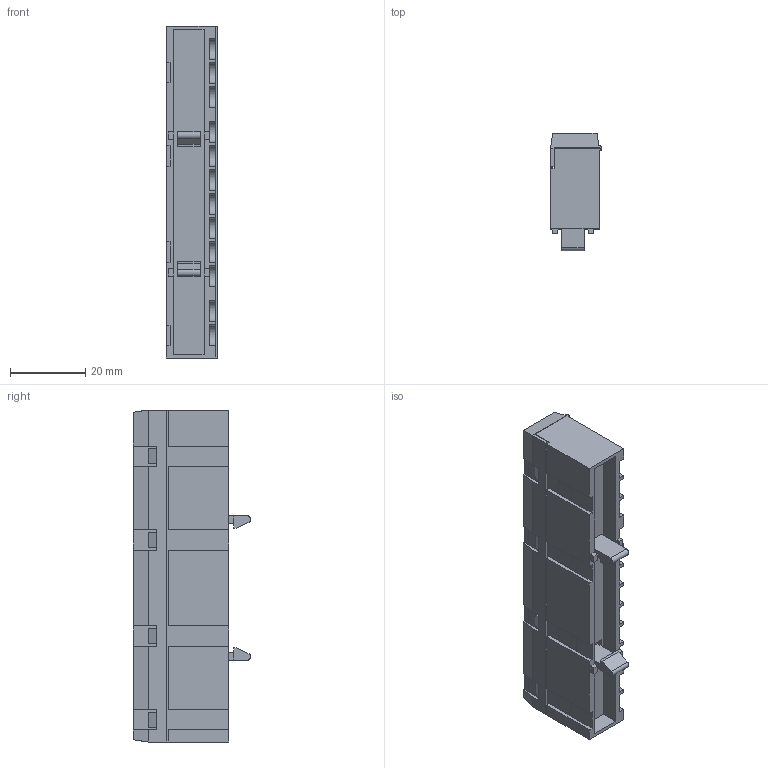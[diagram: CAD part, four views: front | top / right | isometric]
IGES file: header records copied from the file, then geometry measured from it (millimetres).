
Start section: SolidWorks IGES file using analytic representation for surfaces
Global section: file name: D:\3D modely\XXXXXXX NOVÉ SLOŽKY 3D MODELY\IGES\Minia\CS-_\CS-L12.IGS; native system: SolidWorks 2015; preprocessor: SolidWorks 2015; author: adhrja3; date: 180905.103756; units: millimetre
Bounding box: 13.6 x 31.3 x 88.4 mm (x, y, z)
Surface area: 22991.8 mm2 (no closed solid volume)
Topology: 0 solids, 0 shells, 564 faces, 7336 edges, 7336 vertices
Faces by surface type: bspline 380, revolution 184
